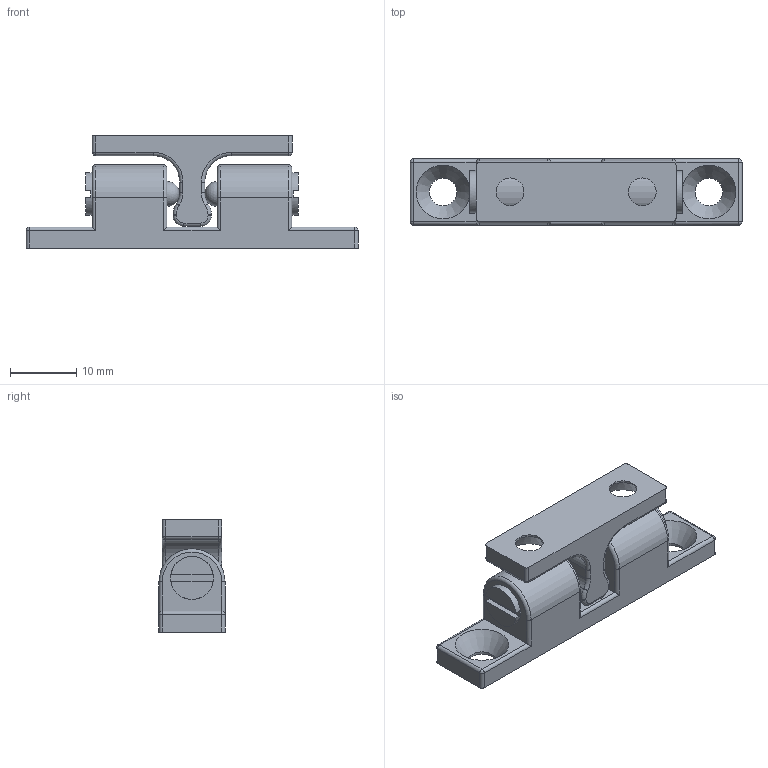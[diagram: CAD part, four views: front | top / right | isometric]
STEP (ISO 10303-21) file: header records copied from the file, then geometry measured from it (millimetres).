
FILE_DESCRIPTION(/* description */ (''),/* implementation_level */ '2;1');
FILE_NAME(/* name */ 'SMX10001M-YT.stp',/* time_stamp */ '2022-01-06T18:15:07+08:00',/* author */ (''),/* organization */ (''),/* preprocessor_version */ 'ST-DEVELOPER v16',/* originating_system */ 'SIEMENS PLM Software NX 11.0',/* authorisation */ '');
FILE_SCHEMA (('AUTOMOTIVE_DESIGN { 1 0 10303 214 3 1 1 1 }'));
Length unit declared in the file: millimetre
Products named in the file (1): Admi11A4D7E0a9ro
Bounding box: 50.2 x 10 x 17 mm (x, y, z)
Volume: 4307.3 mm3; surface area: 3796.5 mm2
Topology: 1 solids, 3 shells, 164 faces, 364 edges, 219 vertices
Faces by surface type: cylinder 70, plane 50, torus 22, sphere 10, bspline 8, cone 4
Full cylindrical faces by diameter (mm): 2.8 x4, 3.8 x2, 4 x2, 4.2 x4, 5 x4, 6 x2, 6.5 x2
Entity records: 7650 total; most frequent: CARTESIAN_POINT 4088, DIRECTION 789, ORIENTED_EDGE 654, AXIS2_PLACEMENT_3D 330, EDGE_CURVE 327, EDGE_LOOP 215, VERTEX_POINT 208, CIRCLE 165
